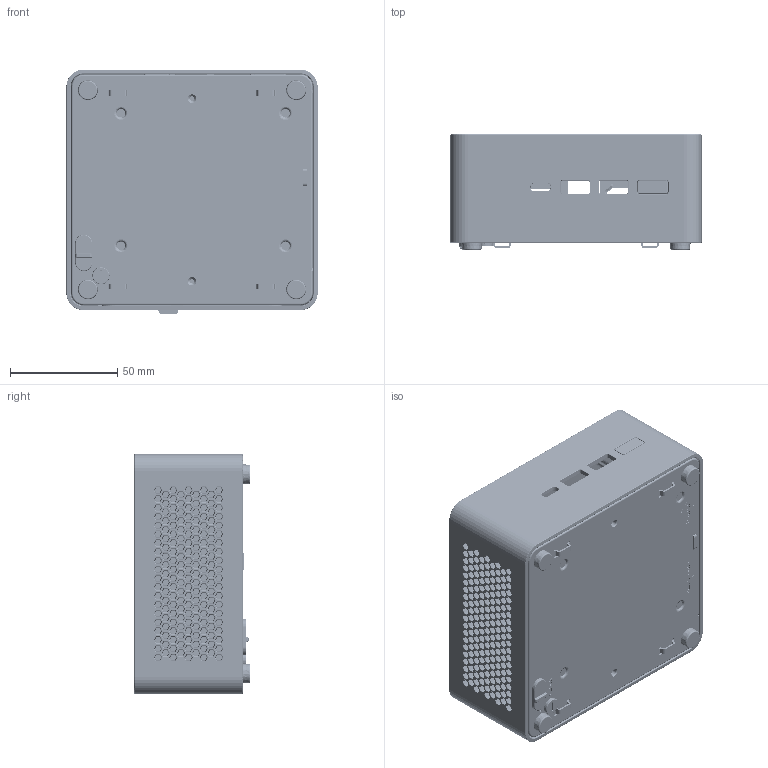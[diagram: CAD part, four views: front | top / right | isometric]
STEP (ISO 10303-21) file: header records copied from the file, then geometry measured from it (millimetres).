
FILE_DESCRIPTION((''),'2;1');
FILE_NAME('0_NUC14R3_RV_NUC_ASM','2025-02-05T10:30:38',('GuyiChen'),(''),'CREO PARAMETRIC BY PTC INC, 2020354','CREO PARAMETRIC BY PTC INC, 2020354','');
FILE_SCHEMA(('AUTOMOTIVE_DESIGN { 1 0 10303 214 1 1 1 1 }'));
Products named in the file (48): PLS_COVER_LID_RV_CM-A2; FILM_COVER_TOP_NUC_RV_CM; ASM_LID_NUC14R3_RV_NUC_ASM; PLS_COVER_TOP_T_RV_CM_A2-UNI; BKT_COVER_TOP_T_RV_CM_A2; STD_COVER_TOP_BKT_RV_CM; ASM_BKT_COVER_TOP_T_RV_CM_A2_ASM; PLS_POWER_BUTTON_RV_CM_A2; SPONG_POW_BTN_RUBBER_NUC_RV_CM; MYLAR_TOP_COVER_T_RV_CM; SCREW_I_M2_5X5_22-235-250503; ASM_TOP_NUC14R3H_RV_NUC_ASM; BKT_BOT_COVER_NUC14R3H; STD_BKT_COVER_BTM_10_NUC_LC; STD_HDD_SATA_NUC_LC; STD_BKT_M2_NUC_LC; STD_LATCH_BTM_COVER_RV_CM; ASM_BKT_COVER_BTM_T_RV_CM_A2_ASM; PLS_LATCH_LOCK_COVER_BOT_CON; PLS_RING_LATCH_LOCK_BOT_CON; SCREW-M2-L3-D5-H0_5; PLS_BTM_LATCH_RV_CM; NUT-M2XL2-OD3; ASM_PLS_BTM_LATCH_RV_CM_AF3_ASM; BKT_BTM_HOOK_RV_CM_MIR; SPRING_RV_CM; RUBBER_FOOT_NUC14R3; BKT_DIMM_NUC14R3H; GASKET_BKT_COVER_BTM_T_NUC_LC; MYLAR_BKT_DIMM_NUC14R3H; BKT_DIMM_NUC14R3H_ASM; SCREW_M25XL4_OD55_H085; MYLAR_K-LOCK_NUC_RV_CM; RUBBER_DIMM_RV_CM; ASM_BOT_NUC14R3H_RV_NUC_AF3_ASM; ASM_BOT_FULL_NUC14R3H_AF0_ASM; ASM_NUC14R3H_RV_NUC_ASM; HS_SSD_M2_NUC14R3H; BKT_HDD_NUC14R3H; BKT_HS_HDD_NUC14R3H_ASM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
Assembly tree (70 placements, depth 7):
  0_NUC14R3_RV_NUC_ASM
    ASM_SYS_NUC14R3_RV_NUC_ASM
      ASM_LID_NUC14R3_RV_NUC_ASM
        PLS_COVER_LID_RV_CM-A2
        FILM_COVER_TOP_NUC_RV_CM
      ASM_NUC14R3H_RV_NUC_ASM
        ASM_TOP_NUC14R3H_RV_NUC_ASM
          PLS_COVER_TOP_T_RV_CM_A2-UNI
          ASM_BKT_COVER_TOP_T_RV_CM_A2_ASM
            BKT_COVER_TOP_T_RV_CM_A2
            STD_COVER_TOP_BKT_RV_CM  x4
          PLS_POWER_BUTTON_RV_CM_A2
          SPONG_POW_BTN_RUBBER_NUC_RV_CM
          MYLAR_TOP_COVER_T_RV_CM
          SCREW_I_M2_5X5_22-235-250503  x4
        ASM_BOT_FULL_NUC14R3H_AF0_ASM
          ASM_BOT_NUC14R3H_RV_NUC_AF3_ASM
            ASM_BKT_COVER_BTM_T_RV_CM_A2_ASM
              BKT_BOT_COVER_NUC14R3H
              STD_BKT_COVER_BTM_10_NUC_LC  x2
              STD_HDD_SATA_NUC_LC  x2
              STD_BKT_M2_NUC_LC  x4
              STD_LATCH_BTM_COVER_RV_CM
            PLS_LATCH_LOCK_COVER_BOT_CON
            PLS_RING_LATCH_LOCK_BOT_CON
            SCREW-M2-L3-D5-H0_5  x3
            ASM_PLS_BTM_LATCH_RV_CM_AF3_ASM
              PLS_BTM_LATCH_RV_CM
              NUT-M2XL2-OD3
            BKT_BTM_HOOK_RV_CM_MIR
            SPRING_RV_CM
            RUBBER_FOOT_NUC14R3  x4
            BKT_DIMM_NUC14R3H_ASM
              BKT_DIMM_NUC14R3H
              GASKET_BKT_COVER_BTM_T_NUC_LC  x2
              MYLAR_BKT_DIMM_NUC14R3H
            SCREW_M25XL4_OD55_H085  x2
            MYLAR_K-LOCK_NUC_RV_CM
            RUBBER_DIMM_RV_CM  x2
      BKT_HS_HDD_NUC14R3H_ASM
        HS_SSD_M2_NUC14R3H
        BKT_HDD_NUC14R3H
        GASKET_BKT_COVER_BTM_T_NUC_LC  x2
      SUB_SERIAL_PORT_BKT_T_NUC_LC_ASM
        PLS_SERIAL_T_NUC_LC
        BKT_SERIAL_PORT_T_NUC_LC
        GASKET_DAUGHTER_USB_T_NUC_LC  x2
        GASKEDAUGHTER_BKT_LAN_T_NUC_LC
        SCREW_M3L5_OD525_H1_F  x2
Bounding box: 117 x 54.15 x 114 mm (x, y, z)
Volume: 106817.6 mm3; surface area: 232683.3 mm2
Topology: 59 solids, 59 shells, 13228 faces, 34350 edges, 21393 vertices
Faces by surface type: plane 7412, cylinder 4304, cone 666, torus 459, bspline 342, sphere 32, extrusion 13
Entity records: 488266 total; most frequent: CARTESIAN_POINT 103494, ORIENTED_EDGE 64330, DIRECTION 58290, EDGE_CURVE 32165, VECTOR 23338, LINE 23325, VERTEX_POINT 19946, AXIS2_PLACEMENT_3D 17476
